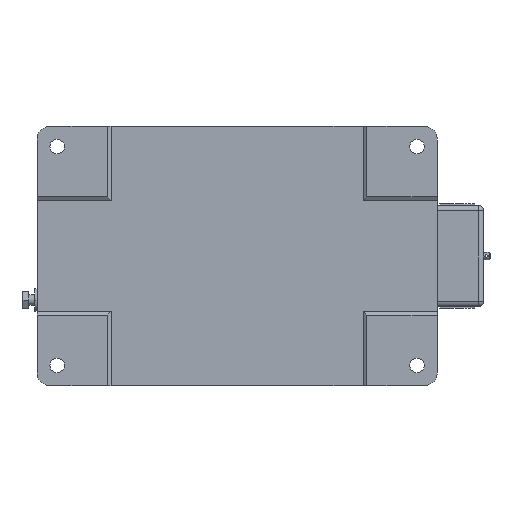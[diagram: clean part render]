
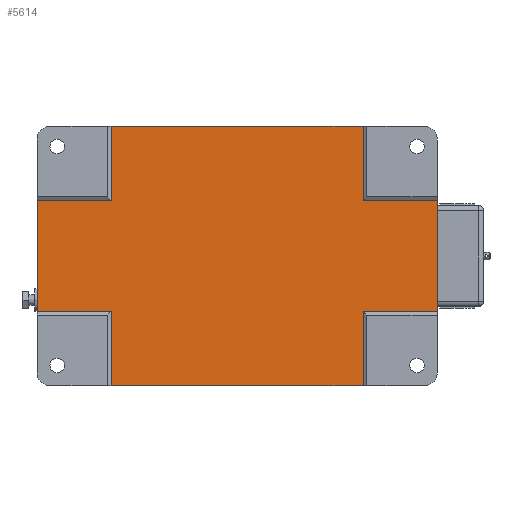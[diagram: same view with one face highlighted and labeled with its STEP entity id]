
A CAD part, front view. The second image highlights one B-rep face of the part: STEP entity #5614.
In plain terms, the highlighted planar face has unit normal (0, -1, 0).
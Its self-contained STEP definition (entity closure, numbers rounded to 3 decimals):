
#20 = VECTOR ( 'NONE', #6878, 1000. ) ;
#44 = CARTESIAN_POINT ( 'NONE',  ( -149.144, 2., -103. ) ) ;
#45 = AXIS2_PLACEMENT_3D ( 'NONE', #7621, #7888, #1539 ) ;
#405 = CARTESIAN_POINT ( 'NONE',  ( -208., 2., 44.144 ) ) ;
#663 = VECTOR ( 'NONE', #2959, 1000. ) ;
#682 = DIRECTION ( 'NONE',  ( 0., 0., 1. ) ) ;
#1081 = VERTEX_POINT ( 'NONE', #7608 ) ;
#1114 = CARTESIAN_POINT ( 'NONE',  ( 51.144, 2., -44.144 ) ) ;
#1285 = VERTEX_POINT ( 'NONE', #6219 ) ;
#1428 = LINE ( 'NONE', #2583, #9478 ) ;
#1539 = DIRECTION ( 'NONE',  ( -1., 0., 0. ) ) ;
#1739 = VECTOR ( 'NONE', #682, 1000. ) ;
#1829 = CARTESIAN_POINT ( 'NONE',  ( 51.144, 2., 103. ) ) ;
#1878 = CARTESIAN_POINT ( 'NONE',  ( 51.144, 2., -103. ) ) ;
#1889 = ORIENTED_EDGE ( 'NONE', *, *, #4027, .T. ) ;
#1911 = CARTESIAN_POINT ( 'NONE',  ( -208., 2., 44.144 ) ) ;
#2065 = VERTEX_POINT ( 'NONE', #11283 ) ;
#2253 = EDGE_LOOP ( 'NONE', ( #9842, #1889, #12137, #5158, #8722, #10250, #5375, #11866, #2985, #6569, #7627, #11495 ) ) ;
#2285 = VERTEX_POINT ( 'NONE', #1114 ) ;
#2389 = VECTOR ( 'NONE', #5967, 1000. ) ;
#2529 = LINE ( 'NONE', #6735, #1739 ) ;
#2583 = CARTESIAN_POINT ( 'NONE',  ( 51.144, 2., -103. ) ) ;
#2596 = CARTESIAN_POINT ( 'NONE',  ( 110., 2., 44.144 ) ) ;
#2599 = VECTOR ( 'NONE', #4651, 1000. ) ;
#2663 = DIRECTION ( 'NONE',  ( 1., 0., 0. ) ) ;
#2707 = EDGE_CURVE ( 'NONE', #13187, #10653, #8788, .T. ) ;
#2755 = EDGE_CURVE ( 'NONE', #8772, #10440, #13428, .T. ) ;
#2910 = LINE ( 'NONE', #44, #4376 ) ;
#2959 = DIRECTION ( 'NONE',  ( -1., 0., 0. ) ) ;
#2985 = ORIENTED_EDGE ( 'NONE', *, *, #4382, .F. ) ;
#3181 = LINE ( 'NONE', #7405, #3923 ) ;
#3520 = VECTOR ( 'NONE', #2663, 1000. ) ;
#3621 = CARTESIAN_POINT ( 'NONE',  ( 51.144, 2., 103. ) ) ;
#3650 = EDGE_CURVE ( 'NONE', #1081, #1285, #2529, .T. ) ;
#3653 = EDGE_CURVE ( 'NONE', #13187, #10808, #8997, .T. ) ;
#3842 = EDGE_CURVE ( 'NONE', #3909, #2285, #1428, .T. ) ;
#3909 = VERTEX_POINT ( 'NONE', #12587 ) ;
#3923 = VECTOR ( 'NONE', #9177, 1000. ) ;
#4006 = EDGE_CURVE ( 'NONE', #13061, #10808, #2910, .T. ) ;
#4027 = EDGE_CURVE ( 'NONE', #8772, #9525, #3181, .T. ) ;
#4134 = VECTOR ( 'NONE', #5910, 1000. ) ;
#4229 = DIRECTION ( 'NONE',  ( 0., 0., 1. ) ) ;
#4376 = VECTOR ( 'NONE', #4229, 1000. ) ;
#4382 = EDGE_CURVE ( 'NONE', #3909, #13061, #10439, .T. ) ;
#4651 = DIRECTION ( 'NONE',  ( -1., 0., 0. ) ) ;
#4714 = LINE ( 'NONE', #3621, #2599 ) ;
#5158 = ORIENTED_EDGE ( 'NONE', *, *, #3650, .F. ) ;
#5375 = ORIENTED_EDGE ( 'NONE', *, *, #3653, .T. ) ;
#5381 = CARTESIAN_POINT ( 'NONE',  ( 51.144, 2., 44.144 ) ) ;
#5614 = ADVANCED_FACE ( 'NONE', ( #8837 ), #13125, .F. ) ;
#5773 = DIRECTION ( 'NONE',  ( 1., 0., 0. ) ) ;
#5910 = DIRECTION ( 'NONE',  ( 1., 0., 0. ) ) ;
#5967 = DIRECTION ( 'NONE',  ( 1., 0., 0. ) ) ;
#6219 = CARTESIAN_POINT ( 'NONE',  ( -149.144, 2., 103. ) ) ;
#6569 = ORIENTED_EDGE ( 'NONE', *, *, #3842, .T. ) ;
#6735 = CARTESIAN_POINT ( 'NONE',  ( -149.144, 2., -103. ) ) ;
#6878 = DIRECTION ( 'NONE',  ( 0., 0., 1. ) ) ;
#7405 = CARTESIAN_POINT ( 'NONE',  ( 51.144, 2., -103. ) ) ;
#7608 = CARTESIAN_POINT ( 'NONE',  ( -149.144, 2., 44.144 ) ) ;
#7621 = CARTESIAN_POINT ( 'NONE',  ( -208., 2., 44.144 ) ) ;
#7627 = ORIENTED_EDGE ( 'NONE', *, *, #12879, .T. ) ;
#7888 = DIRECTION ( 'NONE',  ( 0., 1., 0. ) ) ;
#7980 = DIRECTION ( 'NONE',  ( 0., 0., 1. ) ) ;
#8649 = CARTESIAN_POINT ( 'NONE',  ( -208., 2., 44.144 ) ) ;
#8709 = DIRECTION ( 'NONE',  ( 0., 0., 1. ) ) ;
#8722 = ORIENTED_EDGE ( 'NONE', *, *, #10179, .F. ) ;
#8772 = VERTEX_POINT ( 'NONE', #5381 ) ;
#8788 = LINE ( 'NONE', #405, #9364 ) ;
#8837 = FACE_OUTER_BOUND ( 'NONE', #2253, .T. ) ;
#8997 = LINE ( 'NONE', #9933, #12313 ) ;
#9072 = CARTESIAN_POINT ( 'NONE',  ( 110., 2., 44.144 ) ) ;
#9090 = CARTESIAN_POINT ( 'NONE',  ( -208., 2., 44.144 ) ) ;
#9177 = DIRECTION ( 'NONE',  ( 0., 0., 1. ) ) ;
#9269 = CARTESIAN_POINT ( 'NONE',  ( -208., 2., -44.144 ) ) ;
#9364 = VECTOR ( 'NONE', #7980, 1000. ) ;
#9478 = VECTOR ( 'NONE', #8709, 1000. ) ;
#9525 = VERTEX_POINT ( 'NONE', #1829 ) ;
#9842 = ORIENTED_EDGE ( 'NONE', *, *, #2755, .F. ) ;
#9933 = CARTESIAN_POINT ( 'NONE',  ( -208., 2., -44.144 ) ) ;
#10179 = EDGE_CURVE ( 'NONE', #10653, #1081, #12205, .T. ) ;
#10250 = ORIENTED_EDGE ( 'NONE', *, *, #2707, .F. ) ;
#10364 = EDGE_CURVE ( 'NONE', #9525, #1285, #4714, .T. ) ;
#10439 = LINE ( 'NONE', #1878, #663 ) ;
#10440 = VERTEX_POINT ( 'NONE', #9072 ) ;
#10653 = VERTEX_POINT ( 'NONE', #8649 ) ;
#10808 = VERTEX_POINT ( 'NONE', #12241 ) ;
#11283 = CARTESIAN_POINT ( 'NONE',  ( 110., 2., -44.144 ) ) ;
#11357 = EDGE_CURVE ( 'NONE', #2065, #10440, #12947, .T. ) ;
#11495 = ORIENTED_EDGE ( 'NONE', *, *, #11357, .T. ) ;
#11866 = ORIENTED_EDGE ( 'NONE', *, *, #4006, .F. ) ;
#12113 = CARTESIAN_POINT ( 'NONE',  ( -149.144, 2., -103. ) ) ;
#12136 = CARTESIAN_POINT ( 'NONE',  ( -208., 2., -44.144 ) ) ;
#12137 = ORIENTED_EDGE ( 'NONE', *, *, #10364, .T. ) ;
#12195 = LINE ( 'NONE', #12136, #3520 ) ;
#12205 = LINE ( 'NONE', #9090, #4134 ) ;
#12241 = CARTESIAN_POINT ( 'NONE',  ( -149.144, 2., -44.144 ) ) ;
#12313 = VECTOR ( 'NONE', #5773, 1000. ) ;
#12587 = CARTESIAN_POINT ( 'NONE',  ( 51.144, 2., -103. ) ) ;
#12879 = EDGE_CURVE ( 'NONE', #2285, #2065, #12195, .T. ) ;
#12947 = LINE ( 'NONE', #2596, #20 ) ;
#13061 = VERTEX_POINT ( 'NONE', #12113 ) ;
#13125 = PLANE ( 'NONE',  #45 ) ;
#13187 = VERTEX_POINT ( 'NONE', #9269 ) ;
#13428 = LINE ( 'NONE', #1911, #2389 ) ;
